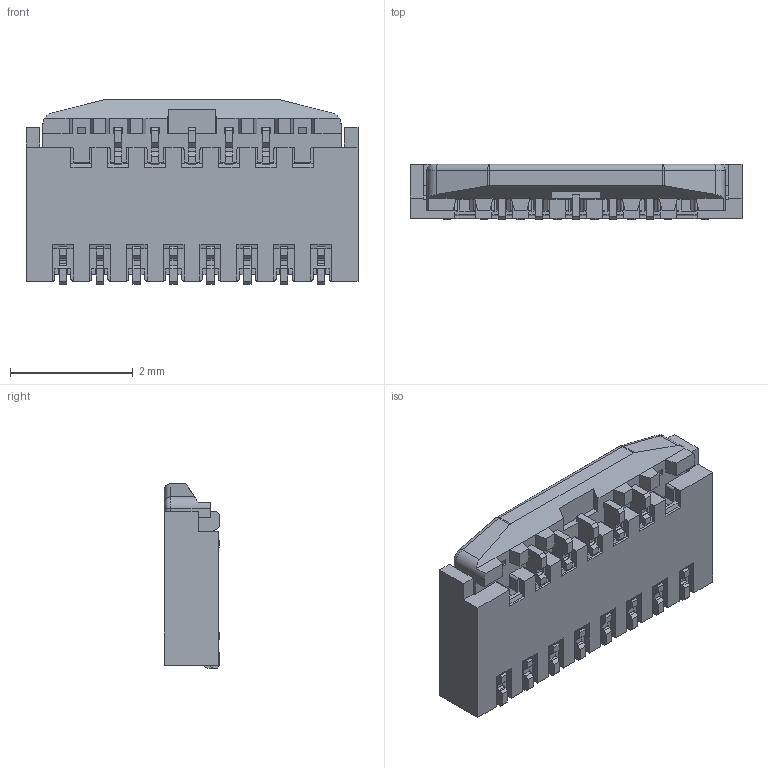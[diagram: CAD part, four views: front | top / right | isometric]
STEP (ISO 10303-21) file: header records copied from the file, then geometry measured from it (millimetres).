
FILE_DESCRIPTION (( 'STEP AP203' ), '1' );
FILE_NAME ('20599-011ExC ASS''Y ACT CLOSE STEP R0 Garmin.STEP', '2013-08-06T04:20:44', ( ' ' ), ( ' ' ), 'SwSTEP 2.0', 'SolidWorks 2011', '' );
FILE_SCHEMA (( 'CONFIG_CONTROL_DESIGN' ));
Length unit declared in the file: millimetre
Products named in the file (1): 20599-011ExC ASS''Y ACT CLOSE STEP R0 Garmin
Bounding box: 5.4 x 0.9 x 3 mm (x, y, z)
Volume: 10.6 mm3; surface area: 67.1 mm2
Topology: 1 solids, 1 shells, 1273 faces, 3787 edges, 2466 vertices
Faces by surface type: plane 1084, cylinder 170, bspline 15, sphere 2, torus 2
Entity records: 42589 total; most frequent: CARTESIAN_POINT 8292, ORIENTED_EDGE 7570, DIRECTION 6565, EDGE_CURVE 3785, LINE 3367, VECTOR 3367, VERTEX_POINT 2466, AXIS2_PLACEMENT_3D 1599
